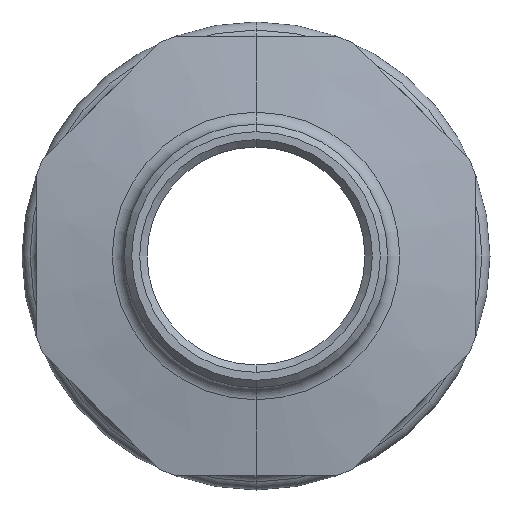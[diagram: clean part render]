
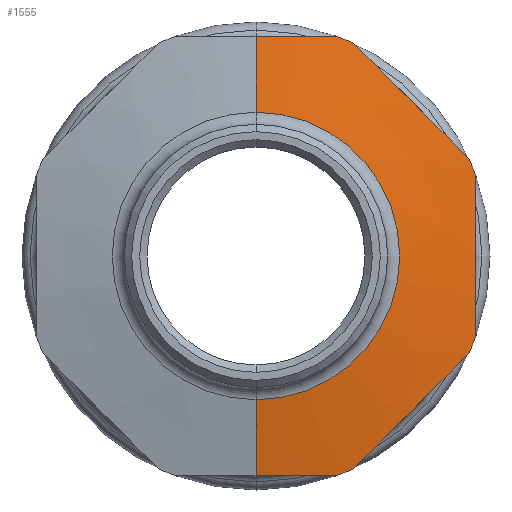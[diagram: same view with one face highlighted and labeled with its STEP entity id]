
A CAD part, front view. The second image highlights one B-rep face of the part: STEP entity #1555.
In plain terms, the highlighted conical face has half-angle 80 degrees and reference radius 9.826 mm.
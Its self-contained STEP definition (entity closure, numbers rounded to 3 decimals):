
#13 = CARTESIAN_POINT ( 'NONE',  ( 0., 23.146, 0. ) ) ;
#32 = CARTESIAN_POINT ( 'NONE',  ( 10.607, 23.996, -10.607 ) ) ;
#35 = CARTESIAN_POINT ( 'NONE',  ( 0., 24.058, -15. ) ) ;
#77 = CIRCLE ( 'NONE', #1379, 16. ) ;
#85 = EDGE_CURVE ( 'NONE', #710, #183, #598, .T. ) ;
#87 = ORIENTED_EDGE ( 'NONE', *, *, #1561, .F. ) ;
#127 = CARTESIAN_POINT ( 'NONE',  ( 15., 24.12, -3.71 ) ) ;
#129 = ORIENTED_EDGE ( 'NONE', *, *, #85, .F. ) ;
#130 = CARTESIAN_POINT ( 'NONE',  ( 15., 24.058, -1.85 ) ) ;
#132 = CARTESIAN_POINT ( 'NONE',  ( 15., 24.058, 1.862 ) ) ;
#139 = VERTEX_POINT ( 'NONE', #595 ) ;
#142 = CARTESIAN_POINT ( 'NONE',  ( 5.568, 24.234, -15. ) ) ;
#144 = CARTESIAN_POINT ( 'NONE',  ( 15., 24.234, 5.568 ) ) ;
#152 = CARTESIAN_POINT ( 'NONE',  ( 6.67, 24.234, 14.544 ) ) ;
#155 = CARTESIAN_POINT ( 'NONE',  ( 0., 24.058, -15. ) ) ;
#158 = DIRECTION ( 'NONE',  ( 0., 0., -1. ) ) ;
#164 = CARTESIAN_POINT ( 'NONE',  ( 15., 24.121, 3.716 ) ) ;
#183 = VERTEX_POINT ( 'NONE', #1407 ) ;
#187 = AXIS2_PLACEMENT_3D ( 'NONE', #1571, #352, #158 ) ;
#253 = CARTESIAN_POINT ( 'NONE',  ( 5.568, 24.234, 15. ) ) ;
#274 = CARTESIAN_POINT ( 'NONE',  ( 3.714, 24.121, 15. ) ) ;
#281 = AXIS2_PLACEMENT_3D ( 'NONE', #740, #724, #704 ) ;
#285 = CARTESIAN_POINT ( 'NONE',  ( 1.858, 24.058, 15. ) ) ;
#288 = VERTEX_POINT ( 'NONE', #744 ) ;
#293 = CARTESIAN_POINT ( 'NONE',  ( 15., 24.234, -5.568 ) ) ;
#308 = ORIENTED_EDGE ( 'NONE', *, *, #1464, .T. ) ;
#319 = CARTESIAN_POINT ( 'NONE',  ( 1.858, 24.058, -15. ) ) ;
#320 = DIRECTION ( 'NONE',  ( 0., 0., -1. ) ) ;
#337 = DIRECTION ( 'NONE',  ( 0., 0., -1. ) ) ;
#346 = DIRECTION ( 'NONE',  ( 0., -1., 0. ) ) ;
#350 = VERTEX_POINT ( 'NONE', #1012 ) ;
#352 = DIRECTION ( 'NONE',  ( 0., -1., 0. ) ) ;
#363 = DIRECTION ( 'NONE',  ( 0., 0.174, -0.985 ) ) ;
#365 = ORIENTED_EDGE ( 'NONE', *, *, #989, .F. ) ;
#370 = CARTESIAN_POINT ( 'NONE',  ( 3.714, 24.121, -15. ) ) ;
#384 = EDGE_CURVE ( 'NONE', #139, #710, #941, .T. ) ;
#396 = CIRCLE ( 'NONE', #187, 16. ) ;
#429 = CARTESIAN_POINT ( 'NONE',  ( 14.544, 24.234, -6.67 ) ) ;
#442 = B_SPLINE_CURVE_WITH_KNOTS ( 'NONE', 3,
 ( #1124, #1133, #1161, #1119, #1116 ),
 .UNSPECIFIED., .F., .F.,
 ( 4, 1, 4 ),
 ( 0., 0.006, 0.011 ),
 .UNSPECIFIED. ) ;
#470 = VECTOR ( 'NONE', #363, 1000. ) ;
#477 = ORIENTED_EDGE ( 'NONE', *, *, #1085, .T. ) ;
#505 = EDGE_CURVE ( 'NONE', #139, #1547, #795, .T. ) ;
#542 = B_SPLINE_CURVE_WITH_KNOTS ( 'NONE', 3,
 ( #1483, #285, #274, #253 ),
 .UNSPECIFIED., .F., .F.,
 ( 4, 4 ),
 ( 0.02, 0.026 ),
 .UNSPECIFIED. ) ;
#543 = EDGE_CURVE ( 'NONE', #183, #288, #542, .T. ) ;
#554 = CARTESIAN_POINT ( 'NONE',  ( 5.568, 24.234, -15. ) ) ;
#565 = VERTEX_POINT ( 'NONE', #1451 ) ;
#571 = EDGE_CURVE ( 'NONE', #565, #1539, #396, .T. ) ;
#595 = CARTESIAN_POINT ( 'NONE',  ( 0., 23.146, -9.826 ) ) ;
#598 = LINE ( 'NONE', #961, #923 ) ;
#611 = EDGE_CURVE ( 'NONE', #1449, #1547, #861, .T. ) ;
#624 = B_SPLINE_CURVE_WITH_KNOTS ( 'NONE', 3,
 ( #429, #1094, #32, #768, #712 ),
 .UNSPECIFIED., .F., .F.,
 ( 4, 1, 4 ),
 ( 0., 0.006, 0.011 ),
 .UNSPECIFIED. ) ;
#629 = AXIS2_PLACEMENT_3D ( 'NONE', #13, #1061, #1388 ) ;
#679 = CARTESIAN_POINT ( 'NONE',  ( 0., 24.234, 0. ) ) ;
#687 = EDGE_CURVE ( 'NONE', #1322, #350, #1510, .T. ) ;
#693 = ORIENTED_EDGE ( 'NONE', *, *, #571, .T. ) ;
#704 = DIRECTION ( 'NONE',  ( 0., 0., -1. ) ) ;
#710 = VERTEX_POINT ( 'NONE', #775 ) ;
#712 = CARTESIAN_POINT ( 'NONE',  ( 6.67, 24.234, -14.544 ) ) ;
#724 = DIRECTION ( 'NONE',  ( 0., -1., 0. ) ) ;
#731 = B_SPLINE_CURVE_WITH_KNOTS ( 'NONE', 3,
 ( #144, #164, #132, #130, #127, #293 ),
 .UNSPECIFIED., .F., .F.,
 ( 4, 2, 4 ),
 ( 0.006, 0.011, 0.017 ),
 .UNSPECIFIED. ) ;
#740 = CARTESIAN_POINT ( 'NONE',  ( 0., 24.234, 0. ) ) ;
#744 = CARTESIAN_POINT ( 'NONE',  ( 5.568, 24.234, 15. ) ) ;
#746 = ORIENTED_EDGE ( 'NONE', *, *, #687, .T. ) ;
#754 = ORIENTED_EDGE ( 'NONE', *, *, #611, .F. ) ;
#761 = DIRECTION ( 'NONE',  ( 0., -1., 0. ) ) ;
#768 = CARTESIAN_POINT ( 'NONE',  ( 7.982, 24.12, -13.231 ) ) ;
#775 = CARTESIAN_POINT ( 'NONE',  ( 0., 23.146, 9.826 ) ) ;
#795 = LINE ( 'NONE', #1474, #470 ) ;
#813 = CARTESIAN_POINT ( 'NONE',  ( 0., 24.234, 0. ) ) ;
#856 = CARTESIAN_POINT ( 'NONE',  ( 0., 23.146, 0. ) ) ;
#861 = B_SPLINE_CURVE_WITH_KNOTS ( 'NONE', 3,
 ( #142, #370, #319, #155 ),
 .UNSPECIFIED., .F., .F.,
 ( 4, 4 ),
 ( 0.006, 0.011 ),
 .UNSPECIFIED. ) ;
#870 = DIRECTION ( 'NONE',  ( 0., -1., 0. ) ) ;
#876 = DIRECTION ( 'NONE',  ( 0., 0., -1. ) ) ;
#884 = VERTEX_POINT ( 'NONE', #1438 ) ;
#923 = VECTOR ( 'NONE', #965, 1000. ) ;
#927 = AXIS2_PLACEMENT_3D ( 'NONE', #679, #346, #337 ) ;
#941 = CIRCLE ( 'NONE', #1028, 9.826 ) ;
#961 = CARTESIAN_POINT ( 'NONE',  ( 0., 23.146, 9.826 ) ) ;
#965 = DIRECTION ( 'NONE',  ( 0., 0.174, 0.985 ) ) ;
#989 = EDGE_CURVE ( 'NONE', #1563, #1539, #442, .T. ) ;
#1012 = CARTESIAN_POINT ( 'NONE',  ( 15., 24.234, -5.568 ) ) ;
#1017 = CARTESIAN_POINT ( 'NONE',  ( 14.544, 24.234, -6.67 ) ) ;
#1028 = AXIS2_PLACEMENT_3D ( 'NONE', #856, #870, #876 ) ;
#1061 = DIRECTION ( 'NONE',  ( 0., 1., 0. ) ) ;
#1085 = EDGE_CURVE ( 'NONE', #1449, #884, #1428, .T. ) ;
#1094 = CARTESIAN_POINT ( 'NONE',  ( 13.231, 24.12, -7.982 ) ) ;
#1116 = CARTESIAN_POINT ( 'NONE',  ( 14.544, 24.234, 6.67 ) ) ;
#1119 = CARTESIAN_POINT ( 'NONE',  ( 13.231, 24.12, 7.982 ) ) ;
#1124 = CARTESIAN_POINT ( 'NONE',  ( 6.67, 24.234, 14.544 ) ) ;
#1133 = CARTESIAN_POINT ( 'NONE',  ( 7.982, 24.12, 13.231 ) ) ;
#1161 = CARTESIAN_POINT ( 'NONE',  ( 10.607, 23.996, 10.607 ) ) ;
#1322 = VERTEX_POINT ( 'NONE', #1017 ) ;
#1340 = CARTESIAN_POINT ( 'NONE',  ( 14.544, 24.234, 6.67 ) ) ;
#1377 = ORIENTED_EDGE ( 'NONE', *, *, #543, .F. ) ;
#1379 = AXIS2_PLACEMENT_3D ( 'NONE', #813, #761, #320 ) ;
#1383 = ORIENTED_EDGE ( 'NONE', *, *, #384, .F. ) ;
#1388 = DIRECTION ( 'NONE',  ( 0., 0., 1. ) ) ;
#1396 = EDGE_CURVE ( 'NONE', #565, #350, #731, .T. ) ;
#1397 = EDGE_LOOP ( 'NONE', ( #1383, #1440, #754, #477, #87, #746, #1416, #693, #365, #308, #1377, #129 ) ) ;
#1407 = CARTESIAN_POINT ( 'NONE',  ( 0., 24.058, 15. ) ) ;
#1416 = ORIENTED_EDGE ( 'NONE', *, *, #1396, .F. ) ;
#1428 = CIRCLE ( 'NONE', #281, 16. ) ;
#1438 = CARTESIAN_POINT ( 'NONE',  ( 6.67, 24.234, -14.544 ) ) ;
#1440 = ORIENTED_EDGE ( 'NONE', *, *, #505, .T. ) ;
#1449 = VERTEX_POINT ( 'NONE', #554 ) ;
#1451 = CARTESIAN_POINT ( 'NONE',  ( 15., 24.234, 5.568 ) ) ;
#1464 = EDGE_CURVE ( 'NONE', #1563, #288, #77, .T. ) ;
#1474 = CARTESIAN_POINT ( 'NONE',  ( 0., 23.146, -9.826 ) ) ;
#1483 = CARTESIAN_POINT ( 'NONE',  ( 0., 24.058, 15. ) ) ;
#1486 = CONICAL_SURFACE ( 'NONE', #629, 9.826, 1.396 ) ;
#1510 = CIRCLE ( 'NONE', #927, 16. ) ;
#1523 = FACE_OUTER_BOUND ( 'NONE', #1397, .T. ) ;
#1539 = VERTEX_POINT ( 'NONE', #1340 ) ;
#1547 = VERTEX_POINT ( 'NONE', #35 ) ;
#1555 = ADVANCED_FACE ( 'NONE', ( #1523 ), #1486, .T. ) ;
#1561 = EDGE_CURVE ( 'NONE', #1322, #884, #624, .T. ) ;
#1563 = VERTEX_POINT ( 'NONE', #152 ) ;
#1571 = CARTESIAN_POINT ( 'NONE',  ( 0., 24.234, 0. ) ) ;
